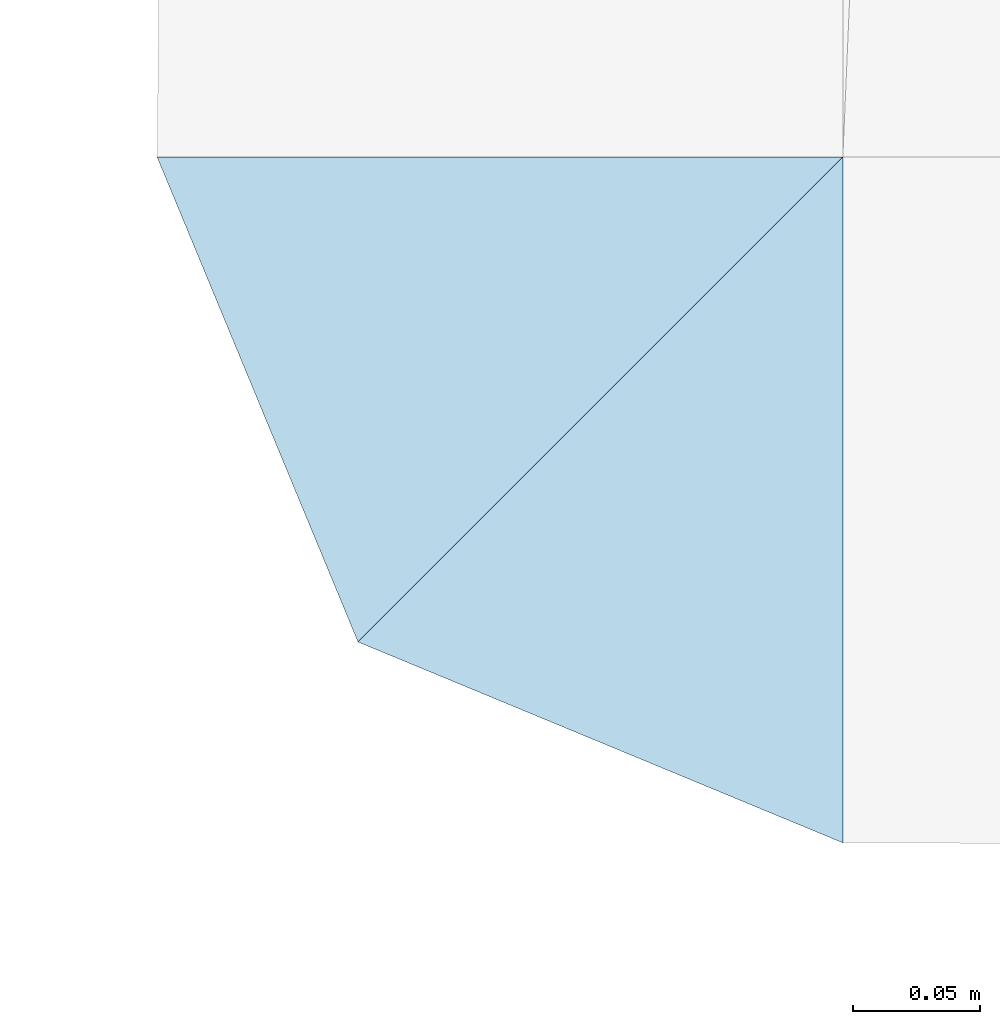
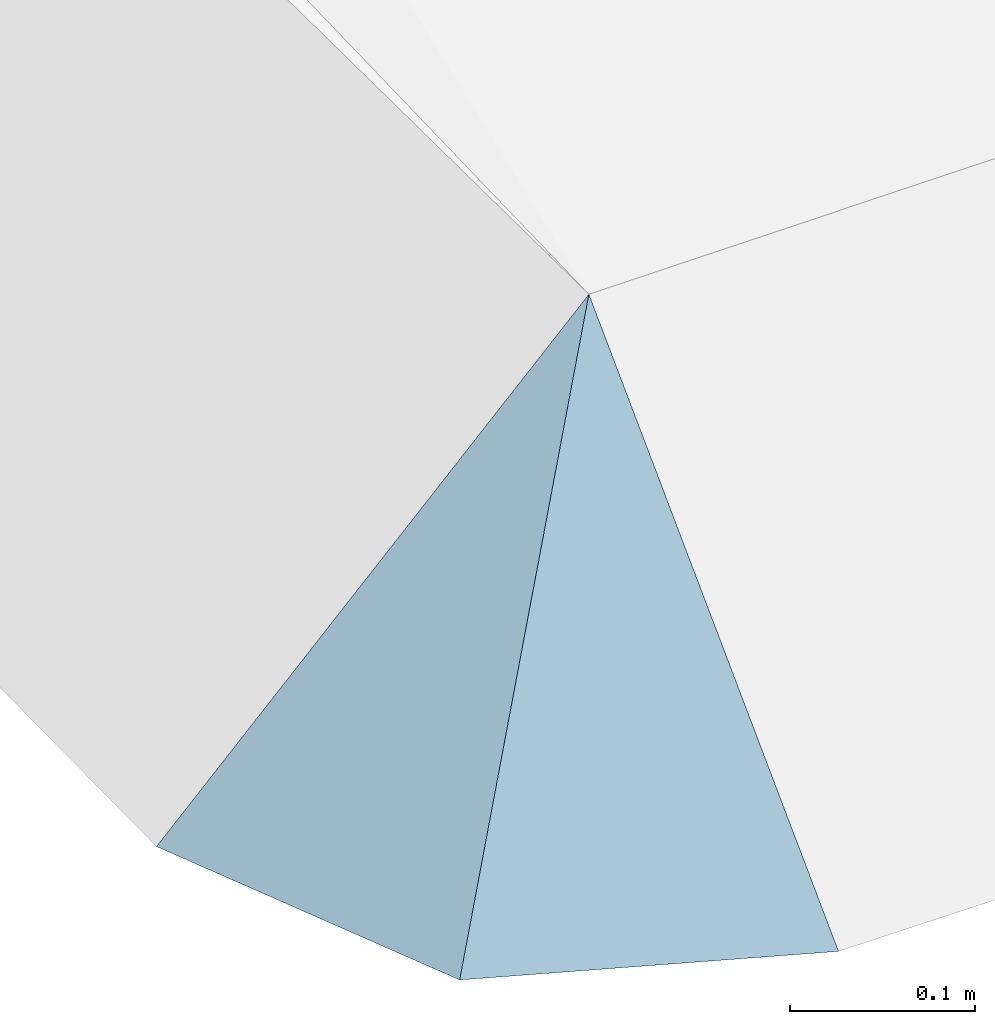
# One storey, part 8 of 14: 2 slabs.
"""IFC2X3 building model written with IfcOpenShell, lengths in metres."""

import ifcopenshell
import ifcopenshell.guid

model = None  # the IFC model being written
_history = None  # IfcOwnerHistory: only IFC2X3 demands one
_inside = {}  # id of a spatial element -> (the spatial element, [elements in it])
_under = {}  # id of a project, library or spatial element -> (it, [spatial elements below it])
_declared = {}  # id of a project -> (the project, [libraries it declares])
_typed = {}  # id of a type object -> (the type object, [elements of that type])
_made_of = {}  # id of a material, layer set ... -> (it, [elements and type objects made of it])


def new_model(schema):
    """Start an empty IFC model of exactly this schema.

    Asked for "IFC4X3", IfcOpenShell would pick the latest addendum, in which some entities
    have other attributes; the version numbers below select the first issue.
    IFC2X3 requires an IfcOwnerHistory on every rooted entity: one is made here for all.
    """
    global model, _history
    if schema == "IFC4X3":
        model = ifcopenshell.file(schema_version=(4, 3, 0, 0))
    else:
        model = ifcopenshell.file(schema=schema)
    _inside.clear()
    _under.clear()
    _declared.clear()
    _typed.clear()
    _made_of.clear()
    _history = None
    if model.schema == "IFC2X3":
        org = make("IfcOrganization", Name="unknown")
        user = make(
            "IfcPersonAndOrganization",
            ThePerson=make("IfcPerson", FamilyName="unknown"),
            TheOrganization=org,
        )
        app = make(
            "IfcApplication",
            ApplicationDeveloper=org,
            Version="unknown",
            ApplicationFullName="unknown",
            ApplicationIdentifier="unknown",
        )
        _history = make(
            "IfcOwnerHistory",
            OwningUser=user,
            OwningApplication=app,
            ChangeAction="ADDED",
            CreationDate=0,
        )
    return model


def make(cls, **values):
    """One entity of the class cls with the attributes given. An attribute that is None is left unset."""
    return model.create_entity(
        cls, **{name: value for name, value in values.items() if value is not None}
    )


def rooted(cls, **values):
    """An entity with a GlobalId (a new one), such as an element, a storey or a relation."""
    return make(cls, GlobalId=ifcopenshell.guid.new(), OwnerHistory=_history, **values)


def si_unit(unit_type, name, prefix=None):
    """IfcSIUnit, for example si_unit("LENGTHUNIT", "METRE", prefix="MILLI")."""
    return make("IfcSIUnit", UnitType=unit_type, Prefix=prefix, Name=name)


def assignment(units):
    """IfcUnitAssignment: the units of a project."""
    return None if units is None else make("IfcUnitAssignment", Units=units)


def point(xyz):
    """IfcCartesianPoint."""
    return None if xyz is None else make("IfcCartesianPoint", Coordinates=xyz)


def direction(xyz):
    """IfcDirection."""
    return None if xyz is None else make("IfcDirection", DirectionRatios=xyz)


def frame(location, z_axis=None, x_axis=None):
    """IfcAxis2Placement3D, a coordinate frame: its origin and axes. An axis left out is left unset."""
    return make(
        "IfcAxis2Placement3D",
        Location=point(location),
        Axis=direction(z_axis),
        RefDirection=direction(x_axis),
    )


def origin():
    """The frame at (0, 0, 0) with its axes left unset."""
    return frame((0.0, 0.0, 0.0))


def origin_with_axes():
    """The frame at (0, 0, 0) with the z axis (0, 0, 1) and the x axis (1, 0, 0) written out."""
    return frame((0.0, 0.0, 0.0), z_axis=(0.0, 0.0, 1.0), x_axis=(1.0, 0.0, 0.0))


def place(relative_to, where):
    """IfcLocalPlacement: puts the frame where relative to a parent placement (None: the world)."""
    return make(
        "IfcLocalPlacement", PlacementRelTo=relative_to, RelativePlacement=where
    )


def context(
    kind, dimensions, precision=None, world=None, true_north=None, identifier=None
):
    """IfcGeometricRepresentationContext, for example the 3D "Model" context."""
    return make(
        "IfcGeometricRepresentationContext",
        ContextIdentifier=identifier,
        ContextType=kind,
        CoordinateSpaceDimension=dimensions,
        Precision=precision,
        WorldCoordinateSystem=world,
        TrueNorth=true_north,
    )


def subcontext(parent, identifier, kind, view, scale=None):
    """IfcGeometricRepresentationSubContext, for example "Body" below "Model"."""
    return make(
        "IfcGeometricRepresentationSubContext",
        ContextIdentifier=identifier,
        ContextType=kind,
        ParentContext=parent,
        TargetScale=scale,
        TargetView=view,
    )


def project(units=None, contexts=None):
    """IfcProject with its units and contexts."""
    return rooted(
        "IfcProject",
        Name="project",
        RepresentationContexts=contexts,
        UnitsInContext=assignment(units),
    )


def spatial(cls, under=None, at=None, **own):
    """A site, building, storey or space (cls), placed at a placement, below another one or the project."""
    s = rooted(cls, ObjectPlacement=at, **own)
    if under is not None:
        _under.setdefault(under.id(), (under, []))[1].append(s)
    return s


def faces_of(points, faces, orient=None, outer=None):
    """IfcFace entities. A face is a list of loops; a loop is a list of indices into points, from 0.

    orient and outer hold one flag for each loop. By default every Orientation is true, the
    first loop of a face is its IfcFaceOuterBound and the others are IfcFaceBound.
    """
    made = []
    for i, loops in enumerate(faces):
        bounds = []
        for j, loop in enumerate(loops):
            is_outer = j == 0 if outer is None else outer[i][j]
            bounds.append(
                make(
                    "IfcFaceOuterBound" if is_outer else "IfcFaceBound",
                    Bound=make("IfcPolyLoop", Polygon=[points[k] for k in loop]),
                    Orientation=True if orient is None else orient[i][j],
                )
            )
        made.append(make("IfcFace", Bounds=bounds))
    return made


def faceted_brep(points, faces, orient=None, outer=None, voids=None):
    """IfcFacetedBrep: a solid bounded by flat faces; with voids (closed shells), ...WithVoids."""
    shared = [point(p) for p in points]
    hull = make("IfcClosedShell", CfsFaces=faces_of(shared, faces, orient, outer))
    if voids is None:
        return make("IfcFacetedBrep", Outer=hull)
    return make(
        "IfcFacetedBrepWithVoids",
        Outer=hull,
        Voids=[
            make(cls, CfsFaces=faces_of(shared, fs, o, b)) for cls, fs, o, b in voids
        ],
    )


def shape(context_of_items, identifier, shape_type, items):
    """IfcShapeRepresentation: the items that make up one representation, for example the "Body"."""
    return make(
        "IfcShapeRepresentation",
        ContextOfItems=context_of_items,
        RepresentationIdentifier=identifier,
        RepresentationType=shape_type,
        Items=items,
    )


def made_of(thing, what):
    """Note that an element or type object is made of a material, layer set ...; save() writes the relation."""
    if what is not None:
        _made_of.setdefault(what.id(), (what, []))[1].append(thing)
    return thing


def element(
    cls,
    number,
    at=None,
    inside=None,
    cuts=None,
    type_object=None,
    material=None,
    context=None,
    identifier="Body",
    shape_type=None,
    held_by="IfcProductDefinitionShape",
    body=None,
    shapes=None,
    **own,
):
    """One element of the class cls, such as IfcWall. Its Tag is "e" and its number.

    at: its placement. inside: the storey or other place that contains it. cuts: it is an
    opening in that element (IfcRelVoidsElement). A single representation is given by context,
    identifier, shape_type and body (its items); several are given by shapes. held_by: the class
    of the entity that holds the representations. save() writes the other relations.
    """
    e = rooted(cls, Tag="e%d" % number, ObjectPlacement=at, **own)
    if body is not None:
        shapes = [shape(context, identifier, shape_type, body)]
    if shapes is not None:
        e.Representation = make(held_by, Representations=shapes)
    if inside is not None:
        _inside.setdefault(inside.id(), (inside, []))[1].append(e)
    if cuts is not None:
        rooted(
            "IfcRelVoidsElement", RelatingBuildingElement=cuts, RelatedOpeningElement=e
        )
    if type_object is not None:
        _typed.setdefault(type_object.id(), (type_object, []))[1].append(e)
    return made_of(e, material)


def aggregate(whole, parts):
    """IfcRelAggregates: a whole, such as a stair, and the parts it consists of."""
    return rooted("IfcRelAggregates", RelatingObject=whole, RelatedObjects=parts)


def save(model, path):
    """Write the relations noted so far, then the file.

    IfcRelAggregates (storeys below a building ...), IfcRelContainedInSpatialStructure (elements
    in a storey), IfcRelDefinesByType, IfcRelAssociatesMaterial and IfcRelDeclares: one each for
    every whole, place, type object, material and project.
    """
    for whole, parts in _under.values():
        aggregate(whole, parts)
    for where, things in _inside.values():
        rooted(
            "IfcRelContainedInSpatialStructure",
            RelatedElements=things,
            RelatingStructure=where,
        )
    for kind, things in _typed.values():
        rooted("IfcRelDefinesByType", RelatedObjects=things, RelatingType=kind)
    for what, things in _made_of.values():
        rooted("IfcRelAssociatesMaterial", RelatedObjects=things, RelatingMaterial=what)
    for by, libraries in _declared.values():
        rooted("IfcRelDeclares", RelatingContext=by, RelatedDefinitions=libraries)
    model.write(path)


model = new_model("IFC2X3")

# Units and contexts
context_of_model = context(None, 3, world=origin_with_axes())
sub_context = subcontext(context_of_model, None, None, "MODEL_VIEW")
ifc_project = project(units=[si_unit("LENGTHUNIT", "METRE"), si_unit("AREAUNIT", "SQUARE_METRE"), si_unit("VOLUMEUNIT", "CUBIC_METRE"), si_unit("PLANEANGLEUNIT", "RADIAN"), si_unit("MASSUNIT", "GRAM", prefix="KILO")])

# Site, building, storey
site_placement = place(None, origin_with_axes())
site = spatial("IfcSite", under=ifc_project, at=site_placement, Name="Site.1", CompositionType="ELEMENT")
building_placement = place(site_placement, origin())
building = spatial("IfcBuilding", under=site, at=building_placement, Name="Building.1", CompositionType="ELEMENT")
storey_placement = place(building_placement, origin())
storey = spatial("IfcBuildingStorey", under=building, at=storey_placement, Name="VRD", CompositionType="ELEMENT")

# Slabs
slab_1_placement = place(storey_placement, origin())
element("IfcSlab", 1, at=slab_1_placement, inside=storey, Name="PJ FINI n°10", PredefinedType="USERDEFINED", context=sub_context, shape_type="Brep", body=[
    faceted_brep([(-23.824534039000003, -52.095936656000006, 0.25), (-24.015452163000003, -52.016855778, 0.25), (-23.824534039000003, -51.825937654, 0.519999)], [[[0, 1, 2]]]),
])
slab_2_placement = place(storey_placement, origin())
element("IfcSlab", 2, at=slab_2_placement, inside=storey, Name="PJ FINI n°100", PredefinedType="USERDEFINED", context=sub_context, shape_type="Brep", body=[
    faceted_brep([(-24.015452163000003, -52.016855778, 0.25), (-24.094533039, -51.825937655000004, 0.25), (-23.824534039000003, -51.825937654, 0.519999)], [[[0, 1, 2]]]),
])

save(model, "model.ifc")
